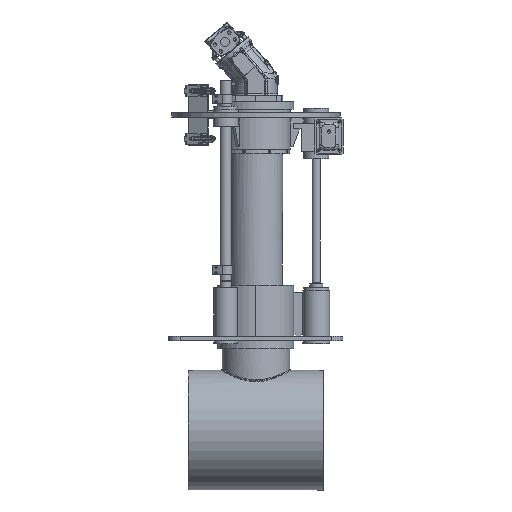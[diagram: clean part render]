
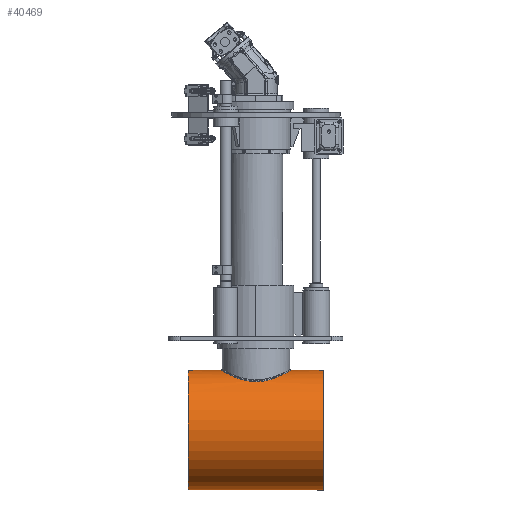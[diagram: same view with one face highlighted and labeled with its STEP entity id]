
A CAD part, front view. The second image highlights one B-rep face of the part: STEP entity #40469.
In plain terms, the highlighted cylindrical face has radius 212.725 mm (diameter 425.45 mm), a full revolution.
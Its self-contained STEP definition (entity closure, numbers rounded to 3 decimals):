
#1691=B_SPLINE_CURVE_WITH_KNOTS('',3,(#59898,#59899,#59900,#59901,#59902,
#59903,#59904,#59905,#59906,#59907,#59908,#59909,#59910,#59911,#59912,#59913,
#59914,#59915),.UNSPECIFIED.,.F.,.F.,(4,2,2,2,2,2,2,2,4),(38.468,
40.879,43.29,45.701,48.112,50.51,
52.907,55.305,57.702),.UNSPECIFIED.);
#1692=B_SPLINE_CURVE_WITH_KNOTS('',3,(#59917,#59918,#59919,#59920,#59921,
#59922,#59923,#59924,#59925,#59926,#59927,#59928,#59929,#59930,#59931,#59932,
#59933,#59934),.UNSPECIFIED.,.F.,.F.,(4,2,2,2,2,2,2,2,4),(19.234,
21.632,24.029,26.427,28.824,31.235,
33.646,36.057,38.468),.UNSPECIFIED.);
#1693=B_SPLINE_CURVE_WITH_KNOTS('',3,(#59936,#59937,#59938,#59939,#59940,
#59941,#59942,#59943,#59944,#59945,#59946,#59947,#59948,#59949,#59950,#59951,
#59952,#59953),.UNSPECIFIED.,.F.,.F.,(4,2,2,2,2,2,2,2,4),(0.,2.411,
4.822,7.233,9.644,12.042,14.439,
16.837,19.234),.UNSPECIFIED.);
#1694=B_SPLINE_CURVE_WITH_KNOTS('',3,(#59954,#59955,#59956,#59957,#59958,
#59959,#59960,#59961,#59962,#59963,#59964,#59965,#59966,#59967,#59968,#59969,
#59970,#59971),.UNSPECIFIED.,.F.,.F.,(4,2,2,2,2,2,2,2,4),(57.702,
60.1,62.497,64.895,67.292,69.703,
72.114,74.525,76.936),.UNSPECIFIED.);
#2666=FACE_BOUND('',#5666,.T.);
#3266=FACE_OUTER_BOUND('',#5665,.T.);
#5665=EDGE_LOOP('',(#25675,#25676,#25677,#25678));
#5666=EDGE_LOOP('',(#25679,#25680,#25681,#25682));
#8667=CIRCLE('',#43012,212.725);
#8668=CIRCLE('',#43013,212.725);
#11320=LINE('',#59894,#13436);
#13436=VECTOR('',#48029,212.725);
#15666=VERTEX_POINT('',#59891);
#15667=VERTEX_POINT('',#59893);
#15668=VERTEX_POINT('',#59896);
#15669=VERTEX_POINT('',#59897);
#15670=VERTEX_POINT('',#59916);
#15671=VERTEX_POINT('',#59935);
#19612=EDGE_CURVE('',#15666,#15666,#8667,.T.);
#19613=EDGE_CURVE('',#15666,#15667,#11320,.T.);
#19614=EDGE_CURVE('',#15667,#15667,#8668,.T.);
#19615=EDGE_CURVE('',#15668,#15669,#1691,.T.);
#19616=EDGE_CURVE('',#15670,#15668,#1692,.T.);
#19617=EDGE_CURVE('',#15671,#15670,#1693,.T.);
#19618=EDGE_CURVE('',#15669,#15671,#1694,.T.);
#25675=ORIENTED_EDGE('',*,*,#19612,.T.);
#25676=ORIENTED_EDGE('',*,*,#19613,.T.);
#25677=ORIENTED_EDGE('',*,*,#19614,.T.);
#25678=ORIENTED_EDGE('',*,*,#19613,.F.);
#25679=ORIENTED_EDGE('',*,*,#19615,.F.);
#25680=ORIENTED_EDGE('',*,*,#19616,.F.);
#25681=ORIENTED_EDGE('',*,*,#19617,.F.);
#25682=ORIENTED_EDGE('',*,*,#19618,.F.);
#37222=CYLINDRICAL_SURFACE('',#43011,212.725);
#40469=ADVANCED_FACE('',(#3266,#2666),#37222,.T.);
#43011=AXIS2_PLACEMENT_3D('',#59890,#48025,#48026);
#43012=AXIS2_PLACEMENT_3D('',#59892,#48027,#48028);
#43013=AXIS2_PLACEMENT_3D('',#59895,#48030,#48031);
#48025=DIRECTION('center_axis',(1.,0.,0.));
#48026=DIRECTION('ref_axis',(0.,0.,
1.));
#48027=DIRECTION('center_axis',(-1.,0.,0.));
#48028=DIRECTION('ref_axis',(0.,0.,
1.));
#48029=DIRECTION('',(-1.,0.,0.));
#48030=DIRECTION('center_axis',(1.,0.,0.));
#48031=DIRECTION('ref_axis',(0.,0.,
1.));
#59890=CARTESIAN_POINT('Origin',(0.,0.,
-318.));
#59891=CARTESIAN_POINT('',(240.,0.,-530.725));
#59892=CARTESIAN_POINT('Origin',(240.,0.,
-318.));
#59893=CARTESIAN_POINT('',(-240.,0.,-530.725));
#59894=CARTESIAN_POINT('',(0.,0.,-530.725));
#59895=CARTESIAN_POINT('Origin',(-240.,0.,
-318.));
#59896=CARTESIAN_POINT('',(0.,-124.,-145.153));
#59897=CARTESIAN_POINT('',(124.,0.,-105.275));
#59898=CARTESIAN_POINT('Ctrl Pts',(0.,-124.,-145.153));
#59899=CARTESIAN_POINT('Ctrl Pts',(8.037,-124.,-145.153));
#59900=CARTESIAN_POINT('Ctrl Pts',(16.254,-123.207,-144.576));
#59901=CARTESIAN_POINT('Ctrl Pts',(32.441,-119.965,-142.318));
#59902=CARTESIAN_POINT('Ctrl Pts',(40.413,-117.519,-140.643));
#59903=CARTESIAN_POINT('Ctrl Pts',(55.596,-111.144,-136.58));
#59904=CARTESIAN_POINT('Ctrl Pts',(62.823,-107.211,-134.195));
#59905=CARTESIAN_POINT('Ctrl Pts',(76.159,-98.186,-129.22));
#59906=CARTESIAN_POINT('Ctrl Pts',(82.269,-93.094,-126.635));
#59907=CARTESIAN_POINT('Ctrl Pts',(93.064,-82.299,-121.751));
#59908=CARTESIAN_POINT('Ctrl Pts',(98.151,-76.205,-119.268));
#59909=CARTESIAN_POINT('Ctrl Pts',(107.187,-62.864,-114.653));
#59910=CARTESIAN_POINT('Ctrl Pts',(111.135,-55.616,-112.525));
#59911=CARTESIAN_POINT('Ctrl Pts',(117.528,-40.389,-108.998));
#59912=CARTESIAN_POINT('Ctrl Pts',(119.978,-32.394,-107.598));
#59913=CARTESIAN_POINT('Ctrl Pts',(123.215,-16.196,-105.736));
#59914=CARTESIAN_POINT('Ctrl Pts',(124.,-7.992,-105.275));
#59915=CARTESIAN_POINT('Ctrl Pts',(124.,0.,-105.275));
#59916=CARTESIAN_POINT('',(-124.,0.,-105.275));
#59917=CARTESIAN_POINT('Ctrl Pts',(-124.,0.,-105.275));
#59918=CARTESIAN_POINT('Ctrl Pts',(-124.,-7.992,-105.275));
#59919=CARTESIAN_POINT('Ctrl Pts',(-123.215,-16.196,-105.736));
#59920=CARTESIAN_POINT('Ctrl Pts',(-119.978,-32.394,
-107.598));
#59921=CARTESIAN_POINT('Ctrl Pts',(-117.528,-40.389,
-108.998));
#59922=CARTESIAN_POINT('Ctrl Pts',(-111.135,-55.616,
-112.525));
#59923=CARTESIAN_POINT('Ctrl Pts',(-107.187,-62.864,
-114.653));
#59924=CARTESIAN_POINT('Ctrl Pts',(-98.151,-76.205,
-119.268));
#59925=CARTESIAN_POINT('Ctrl Pts',(-93.064,-82.299,
-121.751));
#59926=CARTESIAN_POINT('Ctrl Pts',(-82.269,-93.094,
-126.635));
#59927=CARTESIAN_POINT('Ctrl Pts',(-76.159,-98.186,
-129.22));
#59928=CARTESIAN_POINT('Ctrl Pts',(-62.823,-107.211,-134.195));
#59929=CARTESIAN_POINT('Ctrl Pts',(-55.596,-111.144,
-136.58));
#59930=CARTESIAN_POINT('Ctrl Pts',(-40.413,-117.519,
-140.643));
#59931=CARTESIAN_POINT('Ctrl Pts',(-32.441,-119.965,
-142.318));
#59932=CARTESIAN_POINT('Ctrl Pts',(-16.254,-123.207,
-144.576));
#59933=CARTESIAN_POINT('Ctrl Pts',(-8.037,-124.,-145.153));
#59934=CARTESIAN_POINT('Ctrl Pts',(0.,-124.,-145.153));
#59935=CARTESIAN_POINT('',(0.,124.,-145.153));
#59936=CARTESIAN_POINT('Ctrl Pts',(0.,124.,-145.153));
#59937=CARTESIAN_POINT('Ctrl Pts',(-8.037,124.,-145.153));
#59938=CARTESIAN_POINT('Ctrl Pts',(-16.254,123.207,-144.576));
#59939=CARTESIAN_POINT('Ctrl Pts',(-32.441,119.965,-142.318));
#59940=CARTESIAN_POINT('Ctrl Pts',(-40.413,117.519,-140.643));
#59941=CARTESIAN_POINT('Ctrl Pts',(-55.596,111.144,-136.58));
#59942=CARTESIAN_POINT('Ctrl Pts',(-62.823,107.211,-134.195));
#59943=CARTESIAN_POINT('Ctrl Pts',(-76.159,98.186,-129.22));
#59944=CARTESIAN_POINT('Ctrl Pts',(-82.269,93.094,-126.635));
#59945=CARTESIAN_POINT('Ctrl Pts',(-93.064,82.299,-121.751));
#59946=CARTESIAN_POINT('Ctrl Pts',(-98.151,76.205,-119.268));
#59947=CARTESIAN_POINT('Ctrl Pts',(-107.187,62.864,-114.653));
#59948=CARTESIAN_POINT('Ctrl Pts',(-111.135,55.616,-112.525));
#59949=CARTESIAN_POINT('Ctrl Pts',(-117.528,40.389,-108.998));
#59950=CARTESIAN_POINT('Ctrl Pts',(-119.978,32.394,-107.598));
#59951=CARTESIAN_POINT('Ctrl Pts',(-123.215,16.196,-105.736));
#59952=CARTESIAN_POINT('Ctrl Pts',(-124.,7.992,-105.275));
#59953=CARTESIAN_POINT('Ctrl Pts',(-124.,0.,-105.275));
#59954=CARTESIAN_POINT('Ctrl Pts',(124.,0.,-105.275));
#59955=CARTESIAN_POINT('Ctrl Pts',(124.,7.992,-105.275));
#59956=CARTESIAN_POINT('Ctrl Pts',(123.215,16.196,-105.736));
#59957=CARTESIAN_POINT('Ctrl Pts',(119.978,32.394,-107.598));
#59958=CARTESIAN_POINT('Ctrl Pts',(117.528,40.389,-108.998));
#59959=CARTESIAN_POINT('Ctrl Pts',(111.135,55.616,-112.525));
#59960=CARTESIAN_POINT('Ctrl Pts',(107.187,62.864,-114.653));
#59961=CARTESIAN_POINT('Ctrl Pts',(98.151,76.205,-119.268));
#59962=CARTESIAN_POINT('Ctrl Pts',(93.064,82.299,-121.751));
#59963=CARTESIAN_POINT('Ctrl Pts',(82.269,93.094,-126.635));
#59964=CARTESIAN_POINT('Ctrl Pts',(76.159,98.186,-129.22));
#59965=CARTESIAN_POINT('Ctrl Pts',(62.823,107.211,-134.195));
#59966=CARTESIAN_POINT('Ctrl Pts',(55.596,111.144,-136.58));
#59967=CARTESIAN_POINT('Ctrl Pts',(40.413,117.519,-140.643));
#59968=CARTESIAN_POINT('Ctrl Pts',(32.441,119.965,-142.318));
#59969=CARTESIAN_POINT('Ctrl Pts',(16.254,123.207,-144.576));
#59970=CARTESIAN_POINT('Ctrl Pts',(8.037,124.,-145.153));
#59971=CARTESIAN_POINT('Ctrl Pts',(0.,124.,-145.153));
